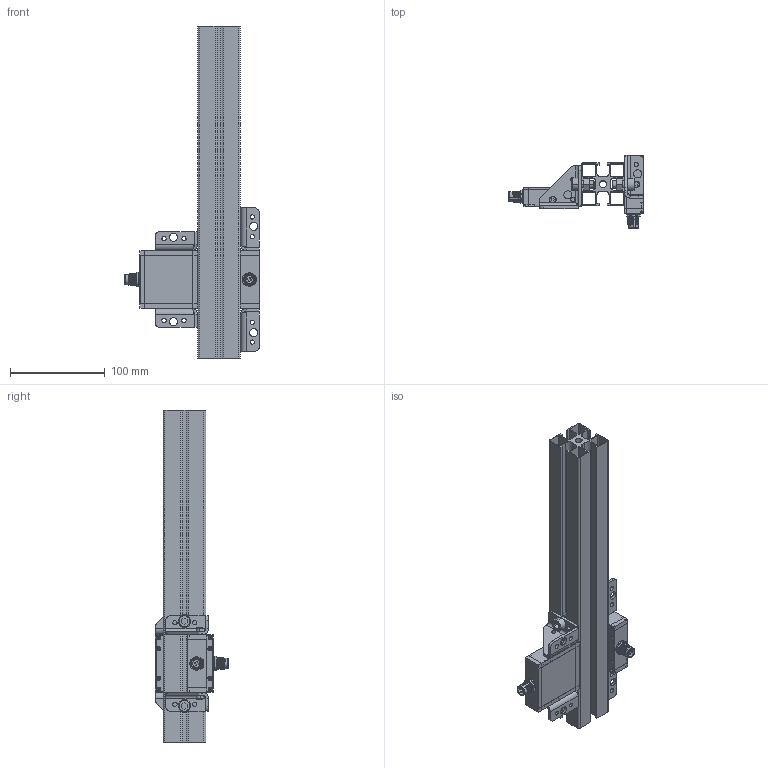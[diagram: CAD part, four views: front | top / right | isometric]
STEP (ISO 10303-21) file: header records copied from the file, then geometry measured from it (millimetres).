
FILE_DESCRIPTION (( 'STEP AP214' ), '1' );
FILE_NAME ('TPLMOUNT-SBACK-SQUARE1.STEP', '2016-05-24T07:15:59', ( 'Ludovic' ), ( '' ), 'SwSTEP 2.0', 'SolidWorks 2014', '' );
FILE_SCHEMA (( 'AUTOMOTIVE_DESIGN' ));
Length unit declared in the file: millimetre
Products named in the file (15): 45x45 rainuré lg 155; TPLMOUNT-SBACK-SQUARE1; ECROU_HU_DIN934_ECROU_HU_M08_A2; Vis CHC_Vis CHC M 8-16; Vis CHC_Vis CHC M 4- 6; 016502; SBACK II 50x50; Ecrou; Joint; connecteur M12; 005993; EC-03-051-105_50x50; EC-03-051-102-PE-DEV; EC-03-051-100-PIE-DEV; EC-03-051-050-PIE-DEV
Assembly tree (32 placements, depth 3):
  TPLMOUNT-SBACK-SQUARE1
    45x45 rainuré lg 155
    SBACK II 50x50  x2
      EC-03-051-050-PIE-DEV
      EC-03-051-100-PIE-DEV
      EC-03-051-102-PE-DEV
      EC-03-051-105_50x50
      005993
      connecteur M12
      Joint
      Ecrou
    016502  x4
    Vis CHC_Vis CHC M 4- 6  x4
    Vis CHC_Vis CHC M 8-16  x4
    ECROU_HU_DIN934_ECROU_HU_M08_A2  x4
Bounding box: 142 x 77 x 350 mm (x, y, z)
Volume: 283416.9 mm3; surface area: 288180.9 mm2
Topology: 43 solids, 43 shells, 1634 faces, 4118 edges, 2544 vertices
Faces by surface type: plane 612, cylinder 590, cone 296, bspline 104, sphere 16, torus 16
Entity records: 36926 total; most frequent: CARTESIAN_POINT 22258, ORIENTED_EDGE 2892, DIRECTION 2765, EDGE_CURVE 1446, AXIS2_PLACEMENT_3D 997, VERTEX_POINT 930, VECTOR 771, LINE 771
